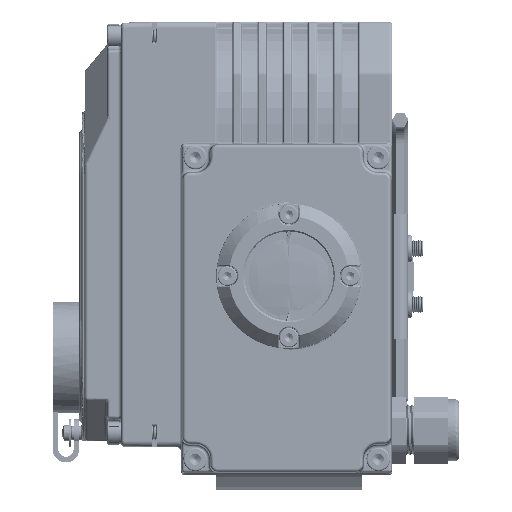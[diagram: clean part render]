
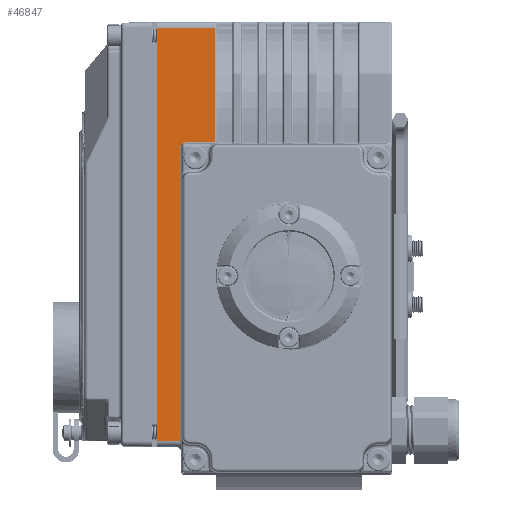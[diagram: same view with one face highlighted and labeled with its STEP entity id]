
A CAD part, top view. The second image highlights one B-rep face of the part: STEP entity #46847.
In plain terms, the highlighted planar face has unit normal (0, 0, 1).
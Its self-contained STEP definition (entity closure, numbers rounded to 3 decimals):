
#46847=ADVANCED_FACE('',(#122530),#122532,.F.);
#122530=FACE_BOUND('',#122531,.T.);
#122531=EDGE_LOOP('',(#154651,#154652,#154653,#154654,#154655,#154656,#154657,#154658,
#154659));
#122532=PLANE('',#122533);
#122533=AXIS2_PLACEMENT_3D('',#122534,#122535,#122536);
#122534=CARTESIAN_POINT('',(1490.698,4206.051,202.633));
#122535=DIRECTION('',(0.,0.,-1.));
#122536=DIRECTION('',(0.,-1.,0.));
#154651=ORIENTED_EDGE('',*,*,#174270,.F.);
#154652=ORIENTED_EDGE('',*,*,#173285,.T.);
#154653=ORIENTED_EDGE('',*,*,#173368,.T.);
#154654=ORIENTED_EDGE('',*,*,#173372,.T.);
#154655=ORIENTED_EDGE('',*,*,#173375,.T.);
#154656=ORIENTED_EDGE('',*,*,#173384,.T.);
#154657=ORIENTED_EDGE('',*,*,#173299,.T.);
#154658=ORIENTED_EDGE('',*,*,#174271,.F.);
#154659=ORIENTED_EDGE('',*,*,#167665,.F.);
#167665=EDGE_CURVE('',#198460,#198435,#198479,.T.);
#173285=EDGE_CURVE('',#207839,#207820,#207840,.T.);
#173299=EDGE_CURVE('',#207858,#207863,#207866,.T.);
#173368=EDGE_CURVE('',#207820,#207975,#207976,.T.);
#173372=EDGE_CURVE('',#207975,#207981,#207983,.T.);
#173375=EDGE_CURVE('',#207981,#207986,#207988,.T.);
#173384=EDGE_CURVE('',#207986,#207858,#208001,.T.);
#174270=EDGE_CURVE('',#207839,#198460,#209384,.T.);
#174271=EDGE_CURVE('',#198435,#207863,#209385,.T.);
#198435=VERTEX_POINT('',#284492);
#198460=VERTEX_POINT('',#284551);
#198479=LINE('',#284604,#284605);
#207820=VERTEX_POINT('',#329235);
#207839=VERTEX_POINT('',#329328);
#207840=LINE('',#329329,#329330);
#207858=VERTEX_POINT('',#329374);
#207863=VERTEX_POINT('',#329388);
#207866=LINE('',#329394,#329395);
#207975=VERTEX_POINT('',#329843);
#207976=LINE('',#329844,#329845);
#207981=VERTEX_POINT('',#329856);
#207983=CIRCLE('',#329861,2.5);
#207986=VERTEX_POINT('',#329870);
#207988=LINE('',#329875,#329876);
#208001=LINE('',#329910,#329911);
#209384=LINE('',#334083,#334084);
#209385=LINE('',#334086,#334087);
#284492=CARTESIAN_POINT('',(1490.698,4350.051,202.633));
#284551=CARTESIAN_POINT('',(1490.698,4214.051,202.633));
#284604=CARTESIAN_POINT('',(1490.698,4214.051,202.633));
#284605=VECTOR('',#284606,1.);
#284606=DIRECTION('',(0.,1.,0.));
#329235=CARTESIAN_POINT('',(1498.698,4208.051,202.633));
#329328=CARTESIAN_POINT('',(1490.698,4208.051,202.633));
#329329=CARTESIAN_POINT('',(1490.698,4208.051,202.633));
#329330=VECTOR('',#329331,1.);
#329331=DIRECTION('',(1.,0.,0.));
#329374=CARTESIAN_POINT('',(1511.198,4356.051,202.633));
#329388=CARTESIAN_POINT('',(1490.698,4356.051,202.633));
#329394=CARTESIAN_POINT('',(1511.198,4356.051,202.633));
#329395=VECTOR('',#329396,1.);
#329396=DIRECTION('',(-1.,0.,0.));
#329843=CARTESIAN_POINT('',(1498.698,4312.551,202.633));
#329844=CARTESIAN_POINT('',(1498.698,4208.051,202.633));
#329845=VECTOR('',#329846,1.);
#329846=DIRECTION('',(0.,1.,0.));
#329856=CARTESIAN_POINT('',(1501.198,4315.051,202.633));
#329861=AXIS2_PLACEMENT_3D('',#329862,#329863,#329864);
#329862=CARTESIAN_POINT('',(1501.198,4312.551,202.633));
#329863=DIRECTION('',(0.,0.,-1.));
#329864=DIRECTION('',(-1.,0.,0.));
#329870=CARTESIAN_POINT('',(1511.198,4315.051,202.633));
#329875=CARTESIAN_POINT('',(1501.198,4315.051,202.633));
#329876=VECTOR('',#329877,1.);
#329877=DIRECTION('',(1.,0.,0.));
#329910=CARTESIAN_POINT('',(1511.198,4315.051,202.633));
#329911=VECTOR('',#329912,1.);
#329912=DIRECTION('',(0.,1.,0.));
#334083=CARTESIAN_POINT('',(1490.698,4208.051,202.633));
#334084=VECTOR('',#334085,1.);
#334085=DIRECTION('',(0.,1.,0.));
#334086=CARTESIAN_POINT('',(1490.698,4350.051,202.633));
#334087=VECTOR('',#334088,1.);
#334088=DIRECTION('',(0.,1.,0.));
